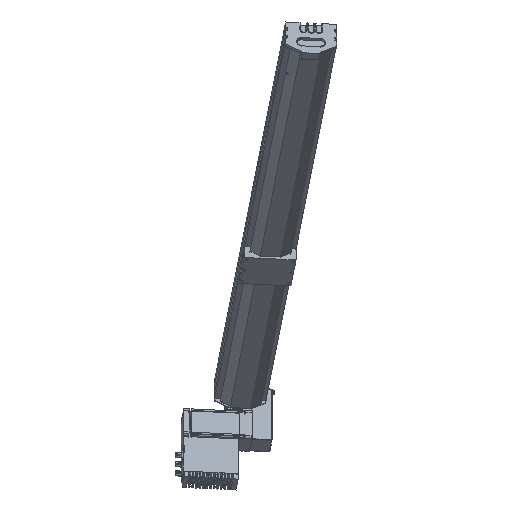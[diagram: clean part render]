
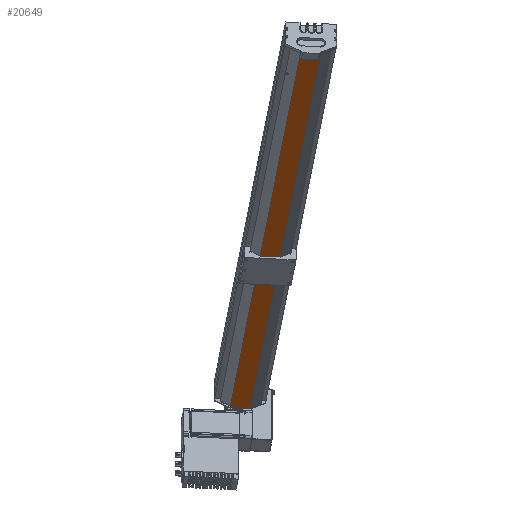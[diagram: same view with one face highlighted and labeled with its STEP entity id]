
A CAD part, isometric view. The second image highlights one B-rep face of the part: STEP entity #20649.
In plain terms, the highlighted planar face has unit normal (-0.632, -0.625, -0.459) as drawn and (0, 1, 0) by its records, which use the part's own axes.
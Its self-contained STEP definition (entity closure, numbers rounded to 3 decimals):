
#5361 = FACE_OUTER_BOUND ( 'NONE', #20527, .T. ) ;
#5373 = AXIS2_PLACEMENT_3D ( 'NONE', #5542, #5541, #5540 ) ;
#5540 = DIRECTION ( 'NONE',  ( 0., 0., -1. ) ) ;
#5541 = DIRECTION ( 'NONE',  ( 0., -1., 0. ) ) ;
#5542 = CARTESIAN_POINT ( 'NONE',  ( 20., 61.75, 1500. ) ) ;
#5549 = PLANE ( 'NONE',  #5373 ) ;
#10344 = CARTESIAN_POINT ( 'NONE',  ( 20., 61.75, 1500. ) ) ;
#10346 = LINE ( 'NONE', #10344, #10571 ) ;
#10538 = CARTESIAN_POINT ( 'NONE',  ( 20., 61.75, 5.114 ) ) ;
#10568 = CARTESIAN_POINT ( 'NONE',  ( 20., 61.75, 0. ) ) ;
#10569 = DIRECTION ( 'NONE',  ( 0., 0., -1. ) ) ;
#10571 = VECTOR ( 'NONE', #10569, 1000. ) ;
#11924 = VERTEX_POINT ( 'NONE', #16654 ) ;
#11934 = ORIENTED_EDGE ( 'NONE', *, *, #20540, .F. ) ;
#12064 = VERTEX_POINT ( 'NONE', #16894 ) ;
#12153 = ORIENTED_EDGE ( 'NONE', *, *, #12220, .T. ) ;
#12220 = EDGE_CURVE ( 'NONE', #20520, #24536, #17541, .T. ) ;
#13200 = DIRECTION ( 'NONE',  ( -1., 0., 0. ) ) ;
#13201 = VECTOR ( 'NONE', #13200, 1000. ) ;
#13203 = CARTESIAN_POINT ( 'NONE',  ( 20., 61.75, 1500. ) ) ;
#13211 = LINE ( 'NONE', #13203, #13201 ) ;
#13263 = DIRECTION ( 'NONE',  ( -1., 0., 0. ) ) ;
#13265 = VECTOR ( 'NONE', #13263, 1000. ) ;
#13384 = CARTESIAN_POINT ( 'NONE',  ( 20., 61.75, 0. ) ) ;
#13413 = LINE ( 'NONE', #13384, #13265 ) ;
#13427 = DIRECTION ( 'NONE',  ( 0., 0., -1. ) ) ;
#13428 = VECTOR ( 'NONE', #13427, 1000. ) ;
#13430 = CARTESIAN_POINT ( 'NONE',  ( -20., 61.75, 1500. ) ) ;
#13432 = LINE ( 'NONE', #13430, #13428 ) ;
#13435 = CARTESIAN_POINT ( 'NONE',  ( 20., 61.75, 1500. ) ) ;
#16654 = CARTESIAN_POINT ( 'NONE',  ( -20., 61.75, 1500. ) ) ;
#16894 = CARTESIAN_POINT ( 'NONE',  ( -20., 61.75, 0. ) ) ;
#17480 = DIRECTION ( 'NONE',  ( 0., 0., -1. ) ) ;
#17482 = VECTOR ( 'NONE', #17480, 1000. ) ;
#17483 = CARTESIAN_POINT ( 'NONE',  ( 20., 61.75, 1500. ) ) ;
#17541 = LINE ( 'NONE', #17483, #17482 ) ;
#20519 = EDGE_CURVE ( 'NONE', #11924, #12064, #13432, .T. ) ;
#20520 = VERTEX_POINT ( 'NONE', #13435 ) ;
#20527 = EDGE_LOOP ( 'NONE', ( #20651, #20650, #11934, #12153, #20541 ) ) ;
#20535 = EDGE_CURVE ( 'NONE', #24532, #12064, #13413, .T. ) ;
#20540 = EDGE_CURVE ( 'NONE', #20520, #11924, #13211, .T. ) ;
#20541 = ORIENTED_EDGE ( 'NONE', *, *, #24520, .T. ) ;
#20649 = ADVANCED_FACE ( 'NONE', ( #5361 ), #5549, .F. ) ;
#20650 = ORIENTED_EDGE ( 'NONE', *, *, #20519, .F. ) ;
#20651 = ORIENTED_EDGE ( 'NONE', *, *, #20535, .T. ) ;
#24520 = EDGE_CURVE ( 'NONE', #24536, #24532, #10346, .T. ) ;
#24532 = VERTEX_POINT ( 'NONE', #10568 ) ;
#24536 = VERTEX_POINT ( 'NONE', #10538 ) ;
